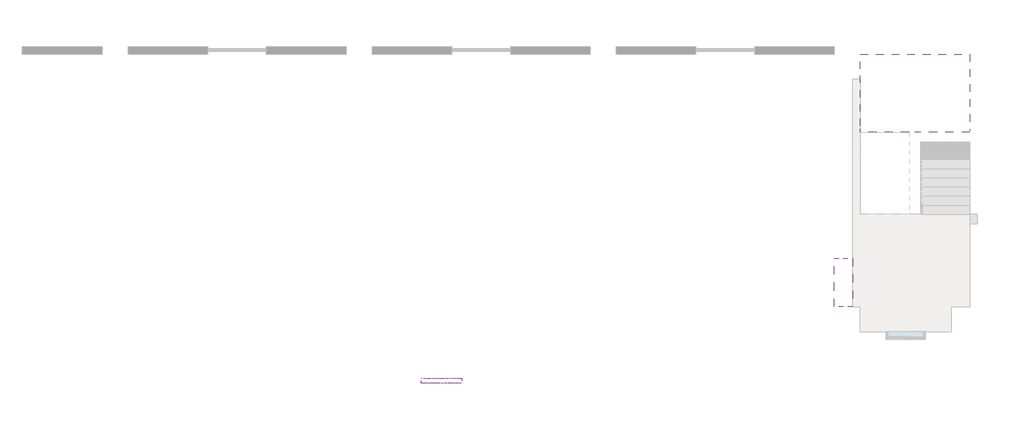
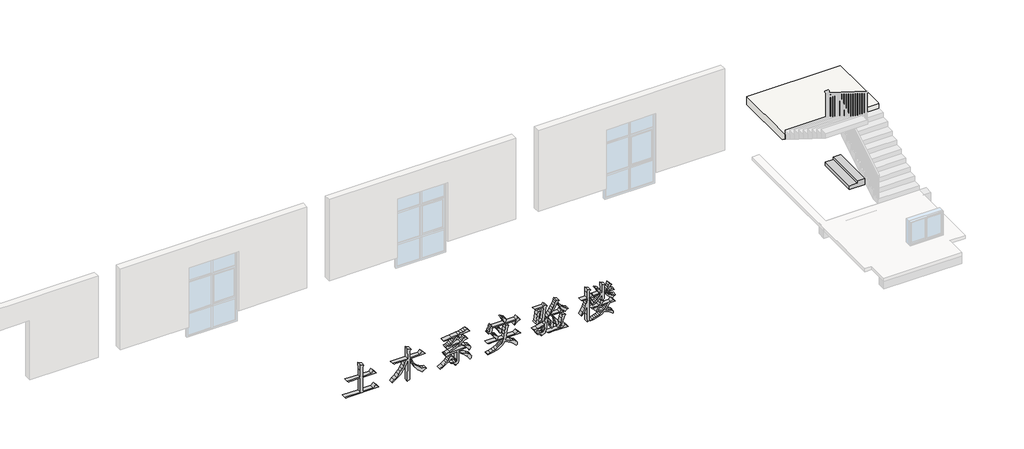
# One storey, part 2 of 2: 2 proxies, 1 slab.
"""IFC4 building model written with IfcOpenShell, lengths in millimetres."""

from ifc_helpers import new_model, si_unit, frame, origin, place, context, project, spatial, polyline, outline, extrude, faceted_brep, transform, mapped, element, save
from components import mechanical_equipment_79b6d416

model = new_model("IFC4")

# Units and contexts
model_context = context("Model", 3, world=origin())
ifc_project = project(units=[si_unit("LENGTHUNIT", "METRE", prefix="MILLI")], contexts=[model_context])

# Site, building, storey
site = spatial("IfcSite", under=ifc_project)
building = spatial("IfcBuilding", under=site)
storey = spatial("IfcBuildingStorey", under=building, Name="三层", Elevation=7000.0)

# Proxies
placement = place(None, origin())
mechanical_equipment_shape = mechanical_equipment_79b6d416(model_context)
element("IfcBuildingElementProxy", 1, Name="机械设备 1 : 机械设备 1", ObjectType="机械设备 1 : 机械设备 1", at=placement, inside=storey, context=model_context, shape_type="MappedRepresentation", body=[
    mapped(mechanical_equipment_shape, transform((0.0, 0.0, 0.0), x_axis=(1.0, 0.0, 0.0), y_axis=(0.0, 1.0, 0.0), z_axis=(0.0, 0.0, 1.0))),
])
element("IfcBuildingElementProxy", 2, Name="1000 mm", ObjectType="1000 mm", at=placement, inside=storey, context=model_context, shape_type="SweptSolid", body=[
    extrude(outline(polyline([(11346.0651621, 6708.2416353), (11119.5594803, 6708.2416353), (11119.5594803, 6235.6706125), (11072.2299349, 6283.000158), (11084.1830599, 6343.3694762), (11088.1674349, 6409.0512944), (11088.1674349, 6708.2416353), (10547.7412985, 6708.2416353), (10547.7412985, 6141.0115216), (10500.411753, 6188.3410671), (10512.364878, 6248.7103853), (10516.349253, 6314.3922034), (10516.349253, 7364.8183398), (10631.7753894, 7249.3922034), (10547.7412985, 7165.3581125), (10547.7412985, 6787.2047034), (11088.1674349, 6787.2047034), (11088.1674349, 7270.4007262), (11193.2100485, 7165.3581125), (11119.5594803, 7091.7075444), (11119.5594803, 6787.2047034), (11484.9145939, 6787.2047034), (11526.2072076, 6834.2927716), (11582.7128894, 6703.1706125), (11346.0651621, 6708.2416353)])), frame((0.0, -1879.8143546, 0.0), z_axis=(0.0, 1.0, 0.0), x_axis=(0.0, 0.0, 1.0)), (0.0, 0.0, 1.0), 150.0),
    extrude(outline(polyline([(11196.349253, 8481.8922034), (11196.349253, 8508.2132262), (11097.1624633, 8529.7537535), (11002.9259576, 8560.3270401), (10913.639736, 8599.9330859), (10829.3037985, 8648.5718909), (10749.9181451, 8706.2434552), (10675.4827758, 8772.9477787), (10605.9976905, 8848.6848615), (10541.4628894, 8933.4547034), (10555.3780172, 8938.9935884), (10568.146128, 8947.6414932), (10590.2412985, 8974.2643625), (10607.7484008, 9013.3233114), (10620.6674349, 9064.8183398), (10641.6759576, 9064.8183398), (10671.1550503, 8973.8078196), (10712.0213056, 8889.8529634), (10764.2747236, 8812.9537713), (10827.9153042, 8743.1102432), (10902.9430474, 8680.3223792), (10989.3579533, 8624.5901793), (11087.1600219, 8575.9136434), (11196.349253, 8534.2927716), (11196.349253, 9038.4973171), (11311.7753894, 8923.0711807), (11227.7412985, 8839.0370898), (11227.7412985, 8481.8922034), (11496.2640258, 8481.8922034), (11539.005503, 8534.2927716), (11598.1674349, 8397.8581125), (11227.7412985, 8403.1706125), (11227.7412985, 7867.3325444), (11180.6532303, 7914.6620898), (11192.4252474, 7975.031408), (11196.349253, 8040.7132262), (11196.349253, 8345.2160671), (11097.9095336, 8305.1685706), (11003.2579888, 8258.5559108), (10912.3946188, 8205.3780877), (10825.3194235, 8145.6351012), (10742.0324029, 8079.3269513), (10662.533557, 8006.4536381), (10586.8228859, 7927.0151615), (10514.9003894, 7841.0115216), (10499.2043667, 7851.6365216), (10559.6755581, 7945.2466956), (10624.9385641, 8031.8087517), (10694.9933848, 8111.32269), (10769.8400201, 8183.7885103), (10849.47847, 8249.2062127), (10933.9087346, 8307.5757972), (11023.1308138, 8358.8972638), (11117.1447076, 8403.1706125), (10361.8037985, 8397.8581125), (10404.0623212, 8487.2047034), (10683.9948496, 8481.8922034), (11196.349253, 8481.8922034)])), frame((0.0, -1879.8143546, 0.0), z_axis=(0.0, 1.0, 0.0), x_axis=(0.0, 0.0, 1.0)), (0.0, 0.0, 1.0), 150.0),
    extrude(outline(polyline([(10789.2185712, 9956.1109534), (10737.8820123, 9921.8060884), (10688.1905172, 9881.9170614), (10640.1440861, 9836.4438725), (10593.7427189, 9785.3865216), (10508.471057, 9675.6954705), (10434.9714121, 9562.0200444), (10419.2753894, 9572.6450444), (10457.7004604, 9656.6942276), (10500.0495371, 9735.4610955), (10546.3226195, 9808.9456481), (10596.5197076, 9877.1478853), (10639.8346934, 9937.2455415), (10670.7739689, 9986.1748739), (10689.3375343, 10023.9358824), (10695.5253894, 10050.5285671), (10789.2185712, 9956.1109534)])), frame((0.0, -1879.8143546, 0.0), z_axis=(0.0, 1.0, 0.0), x_axis=(0.0, 0.0, 1.0)), (0.0, 0.0, 1.0), 150.0),
    extrude(outline(polyline([(10768.2100485, 10323.6393625), (10752.5140258, 10313.2558398), (10673.7622502, 10419.8680557), (10604.1262417, 10503.5399307), (10543.6060002, 10564.2714648), (10516.7642921, 10586.034604), (10492.2015258, 10602.062658), (10464.8391323, 10617.4417418), (10445.2945655, 10632.1869478), (10433.5678255, 10646.2982759), (10429.6589121, 10659.7757262), (10436.1787985, 10668.3481694), (10455.7384576, 10683.4404989), (10470.2421863, 10691.1451331), (10487.6738269, 10695.9067631), (10531.3208439, 10696.6010103), (10555.5817637, 10690.5489861), (10578.861682, 10677.584675), (10601.1605989, 10657.708077), (10622.4785144, 10630.9191921), (10647.2072964, 10589.0304314), (10679.7388127, 10523.8542063), (10768.2100485, 10323.6393625)])), frame((0.0, -1879.8143546, 0.0), z_axis=(0.0, 1.0, 0.0), x_axis=(0.0, 0.0, 1.0)), (0.0, 0.0, 1.0), 150.0),
    extrude(outline(polyline([(10906.5765258, 10528.4120898), (10856.7718383, 10565.8410671), (10812.1589121, 10594.093908), (10796.0704888, 10605.9262944), (10789.8222644, 10617.7586807), (10793.4142388, 10629.5910671), (10806.8464121, 10641.4234534), (10825.6891856, 10651.6107759), (10845.5129604, 10658.5079705), (10866.3177367, 10662.1150373), (10888.1035144, 10662.4319762), (10910.0553077, 10657.1647532), (10931.3581309, 10644.0193341), (10952.0119839, 10622.9957191), (10972.0168667, 10594.093908), (11014.6376053, 10509.3957546), (11063.7782303, 10386.6649307), (11048.0822076, 10376.281408), (11000.8734008, 10435.2622319), (10932.6560712, 10507.4035671), (10901.2640258, 9882.4603853), (10958.9770939, 9996.0754421), (11048.0822076, 10158.2274307), (11199.9714121, 10423.3694762), (11218.5802545, 10459.1986665), (11232.6312133, 10493.0356694), (11242.1242885, 10524.8804847), (11247.0594803, 10554.7331125), (11330.8520939, 10455.0029989), (11296.8037985, 10425.7389719), (11262.755503, 10390.5889364), (11228.7072076, 10349.5528924), (11194.6589121, 10302.6308398), (11178.9628894, 9887.7728853), (11196.3643454, 9922.8927361), (11222.2476905, 9965.2267205), (11299.4600485, 10071.5370898), (11341.4167246, 10126.3977077), (11372.8691394, 10175.3119478), (11393.8172928, 10218.27981), (11404.2611849, 10255.3012944), (11456.661753, 10150.2586807), (11488.0537985, 10415.5214648), (11498.6787985, 10535.6865927), (11498.6787985, 10628.3836807), (11598.1674349, 10549.4206125), (11573.1141678, 10477.2566388), (11550.3549349, 10397.1993767), (11529.889736, 10309.2488263), (11511.7185712, 10213.4049875), (11479.6020939, 9984.9373029), (11451.349253, 9698.6961807), (11430.5822076, 9698.6961807), (11435.7739689, 9866.7039932), (11451.349253, 10129.250158), (11402.7444057, 10092.7267205), (11356.4185002, 10051.2529989), (11312.3715364, 10004.8289932), (11270.6035144, 9953.4547034), (11234.7365932, 9901.7332901), (11208.392932, 9854.2679137), (11191.5725307, 9811.0585742), (11184.2753894, 9772.1052716), (11079.474253, 9824.7473171), (11103.6219803, 9885.0562659), (11123.9060712, 9961.1819762), (11142.9224064, 10076.7288512), (11163.2668667, 10255.3012944), (11046.6937133, 10059.1010103), (10969.3606167, 9911.437658), (10924.8080599, 9804.4028569), (10912.402165, 9763.1555202), (10906.5765258, 9730.0882262), (10806.8464121, 9782.7302716), (10827.1908724, 9845.031408), (10846.2072076, 9927.1336807), (10862.5672928, 10032.9007262), (10874.943003, 10166.1961807), (10576.4770939, 10166.1961807), (10544.3606167, 10165.9547034), (10521.4202758, 10160.1592489), (10507.6560712, 10148.8098171), (10503.068003, 10131.906408), (10506.9920087, 10068.2771466), (10518.7640258, 9956.1109534), (10497.755503, 9956.1109534), (10476.460226, 10027.3165642), (10463.6053344, 10055.2901971), (10449.2789405, 10078.1777148), (10433.4810446, 10095.9791175), (10416.2116465, 10108.6944052), (10397.4707463, 10116.3235777), (10377.2583439, 10118.8666353), (10387.8267477, 10149.4889719), (10401.1796863, 10175.6741637), (10417.3171596, 10197.4222106), (10436.2391678, 10214.7331125), (10457.9457108, 10227.6068696), (10482.4367885, 10236.0434819), (10509.7124011, 10240.0429492), (10539.7725485, 10239.6052716), (10885.568003, 10239.6052716), (10906.5765258, 10528.4120898)])), frame((0.0, -1879.8143546, 0.0), z_axis=(0.0, 1.0, 0.0), x_axis=(0.0, 0.0, 1.0)), (0.0, 0.0, 1.0), 150.0),
    extrude(outline(polyline([(11062.5708439, 11451.0967489), (11047.1162985, 11440.7132262), (11001.9449562, 11484.3300586), (10958.6752474, 11520.7629421), (10917.3071721, 11550.0118767), (10877.8407303, 11572.0768625), (10839.264736, 11591.7572603), (10829.6207374, 11600.6013654), (10826.4060712, 11608.781408), (10834.1031593, 11620.5232404), (10857.1944235, 11634.9816921), (10886.6848354, 11646.8442631), (10913.5793667, 11650.7984534), (10941.2888837, 11644.2181978), (10972.7412985, 11624.4774307), (10990.8520939, 11603.7707546), (11011.8606167, 11567.9717489), (11035.7668667, 11517.0804137), (11062.5708439, 11451.0967489)])), frame((0.0, -1879.8143546, 0.0), z_axis=(0.0, 1.0, 0.0), x_axis=(0.0, 0.0, 1.0)), (0.0, 0.0, 1.0), 150.0),
    extrude(outline(polyline([(11603.2384576, 11761.1535671), (11556.9050059, 11794.583077), (11512.5637417, 11821.4625159), (11470.214665, 11841.7918838), (11429.8577758, 11855.5711807), (11390.5573496, 11867.4639364), (11380.7322431, 11874.361131), (11377.4572076, 11881.8922034), (11379.4267566, 11890.2382617), (11385.3354036, 11899.5804137), (11408.9699917, 11921.2529989), (11440.4525911, 11939.0015784), (11471.8748212, 11944.9177716), (11488.0085215, 11942.2917063), (11504.7760996, 11934.4135103), (11522.1775556, 11921.2831836), (11540.2128894, 11902.9007262), (11576.9174349, 11850.3794194), (11613.6219803, 11776.8495898), (11603.2384576, 11761.1535671)])), frame((0.0, -1879.8143546, 0.0), z_axis=(0.0, 1.0, 0.0), x_axis=(0.0, 0.0, 1.0)), (0.0, 0.0, 1.0), 150.0),
    extrude(outline(polyline([(11172.9259576, 12228.4120898), (11162.3009576, 12244.3495898), (11221.764736, 12302.7569052), (11263.4799349, 12357.2402148), (11277.681817, 12383.0103675), (11287.4465542, 12407.7995188), (11292.7741465, 12431.6076686), (11293.6645939, 12454.4348171), (11409.3322076, 12354.4632262), (11351.3776621, 12296.750158), (11351.3776621, 11430.0882262), (11414.4032303, 11425.0172034), (11414.4032303, 11404.0086807), (11359.3011351, 11393.4289577), (11309.420986, 11377.6272887), (11264.7627829, 11356.6036736), (11225.3265258, 11330.3581125), (11192.545986, 11306.8140784), (11167.6134576, 11298.9660671), (11160.4144164, 11302.0826331), (11154.5133155, 11311.4323313), (11146.6049349, 11348.8311239), (11147.2388127, 11371.9601189), (11154.4529462, 11391.4820472), (11168.2473354, 11407.3969087), (11188.6219803, 11419.7047034), (11214.5807871, 11428.2318696), (11245.1276621, 11432.8048455), (11280.2626053, 11433.423631), (11319.9856167, 11430.0882262), (11319.9856167, 12307.375158), (11172.9259576, 12228.4120898)])), frame((0.0, -1879.8143546, 0.0), z_axis=(0.0, 1.0, 0.0), x_axis=(0.0, 0.0, 1.0)), (0.0, 0.0, 1.0), 150.0),
    extrude(outline(polyline([(10779.0765258, 11934.2927716), (10779.0765258, 12459.5058398), (10889.4316394, 12349.3922034), (10810.4685712, 12270.4291353), (10810.4685712, 11944.9177716), (10989.1013837, 11969.9106694), (11178.2384576, 11992.2473171), (11214.943003, 12034.2643625), (11277.9685712, 11902.9007262), (11166.3758866, 11900.2746608), (11041.6830599, 11892.3964648), (10918.2579888, 11879.2661381), (10810.4685712, 11860.8836807), (10810.4685712, 11267.3325444), (10763.380503, 11314.6620898), (10775.1525201, 11375.031408), (10779.0765258, 11440.7132262), (10779.0765258, 11855.5711807), (10737.5292291, 11839.6638654), (10698.4910322, 11820.7984534), (10661.961935, 11798.9749449), (10627.9419377, 11774.1933398), (10596.4310401, 11746.4536381), (10567.4292424, 11715.7558398), (10540.9365444, 11682.0999449), (10516.9529462, 11645.4859534), (10474.5057694, 11565.043837), (10438.080432, 11476.0896466), (10407.6769341, 11378.6233824), (10383.2952758, 11272.6450444), (10361.8037985, 11272.6450444), (10379.9070478, 11387.8146111), (10402.5832729, 11491.8460387), (10429.8324739, 11584.739327), (10461.6546508, 11666.4944762), (10499.7099597, 11737.745364), (10545.658557, 11799.1258682), (10599.5004427, 11850.635989), (10661.2356167, 11892.2757262), (10597.5308937, 12013.1200088), (10537.780361, 12112.9255841), (10481.9840187, 12191.692452), (10430.1418667, 12249.4206125), (10390.8414405, 12290.1699023), (10381.016334, 12305.6093554), (10377.7412985, 12317.7586807), (10382.0878894, 12327.115925), (10395.1276621, 12334.1791353), (10416.8606167, 12338.9483114), (10447.286753, 12341.4234534), (10480.7238091, 12336.8429314), (10511.4895229, 12320.4451154), (10539.5838944, 12292.2300053), (10565.0069235, 12252.1976012), (10591.0940151, 12195.9107581), (10621.1805741, 12118.9323313), (10693.3520939, 11902.9007262), (10779.0765258, 11934.2927716)])), frame((0.0, -1879.8143546, 0.0), z_axis=(0.0, 1.0, 0.0), x_axis=(0.0, 0.0, 1.0)), (0.0, 0.0, 1.0), 150.0),
    extrude(outline(polyline([(11256.9600485, 11593.0853853), (11241.505503, 11582.4603853), (11203.0955243, 11619.2102077), (11164.655361, 11650.7380841), (11126.185013, 11677.0440145), (11087.6844803, 11698.1279989), (11049.2895939, 11717.8083966), (11039.6908724, 11726.6525017), (11036.4912985, 11734.8325444), (11044.1883866, 11746.5743767), (11067.2796508, 11761.0328284), (11096.7700627, 11772.8953995), (11123.6645939, 11776.8495898), (11150.5591252, 11770.2693341), (11180.0495371, 11750.5285671), (11196.4020762, 11730.8179847), (11214.6713411, 11698.0072603), (11256.9600485, 11593.0853853)])), frame((0.0, -1879.8143546, 0.0), z_axis=(0.0, 1.0, 0.0), x_axis=(0.0, 0.0, 1.0)), (0.0, 0.0, 1.0), 150.0),
    extrude(outline(polyline([(10728.1248212, 12930.6279989), (10638.7782303, 12988.3410671), (10650.0257889, 12997.9435618), (10662.759942, 13016.2467844), (10692.6880314, 13078.9554137), (10728.5624988, 13176.4669549), (10770.3833439, 13308.781408), (10791.3918667, 13303.468908), (10749.2540826, 13076.359533), (10728.1248212, 12930.6279989)])), frame((0.0, -1879.8143546, 0.0), z_axis=(0.0, 1.0, 0.0), x_axis=(0.0, 0.0, 1.0)), (0.0, 0.0, 1.0), 150.0),
    extrude(outline(polyline([(10985.2981167, 13970.4291353), (10921.6235783, 13961.9019691), (10814.6340542, 13936.3204705), (10664.3295442, 13893.6846395), (10470.7100485, 13833.9944762), (10470.7100485, 13419.1365216), (10423.380503, 13466.2245898), (10435.1525201, 13526.7146466), (10439.0765258, 13592.2757262), (10439.0765258, 14164.8183398), (10544.1191394, 14070.4007262), (10470.7100485, 13996.750158), (10470.7100485, 13865.3865216), (10798.8776621, 14002.062658), (10842.3435712, 14022.7391495), (10875.6674349, 14042.7515784), (10898.849253, 14062.0999449), (10911.8890258, 14080.7842489), (10985.2981167, 13970.4291353)])), frame((0.0, -1879.8143546, 0.0), z_axis=(0.0, 1.0, 0.0), x_axis=(0.0, 0.0, 1.0)), (0.0, 0.0, 1.0), 150.0),
    extrude(outline(polyline([(11490.4685712, 12967.3325444), (11443.380503, 13014.6620898), (11455.1525201, 13075.031408), (11459.0765258, 13140.7132262), (11459.0765258, 13298.156408), (10980.4685712, 13245.7558398), (10980.4685712, 13093.3836807), (11295.5964121, 13135.4007262), (11327.2299349, 13177.4177716), (11384.943003, 13072.375158), (11239.2718383, 13057.8865216), (10991.0935712, 13025.0456125), (10970.0850485, 12988.3410671), (10907.0594803, 13056.6791353), (10949.0765258, 13093.3836807), (10949.0765258, 13350.7984534), (10723.4160144, 13329.1258682), (10648.1656593, 13317.7915287), (10597.9685712, 13306.125158), (10564.8409079, 13293.4777858), (10540.7988269, 13279.2004421), (10525.8423283, 13263.2931267), (10519.9714121, 13245.7558398), (10525.827236, 13181.4625159), (10548.7072076, 13061.9916353), (10527.6986849, 13056.6791353), (10502.7510641, 13121.3497674), (10474.5133155, 13168.3020046), (10459.1606433, 13185.1337251), (10442.9854391, 13197.5358469), (10425.987703, 13205.50837), (10408.1674349, 13209.0512944), (10423.3503184, 13254.8716069), (10447.6489689, 13298.156408), (10464.5448319, 13318.1839293), (10486.3758866, 13336.2494478), (10513.142133, 13352.3529634), (10544.8435712, 13366.4944762), (10594.7689974, 13379.6549875), (10676.2072076, 13392.8154989), (10789.1582019, 13405.9760103), (10933.6219803, 13419.1365216), (10965.0140258, 13461.1535671), (11028.0395939, 13382.1904989), (10986.0225485, 13350.7984534), (10986.0225485, 13314.093908), (11443.1390258, 13366.4944762), (11474.7725485, 13413.8240216), (11543.1106167, 13335.1024307), (11490.4685712, 13293.0853853), (11490.4685712, 12967.3325444)])), frame((0.0, -1879.8143546, 0.0), z_axis=(0.0, 1.0, 0.0), x_axis=(0.0, 0.0, 1.0)), (0.0, 0.0, 1.0), 150.0),
    extrude(outline(polyline([(10967.911753, 13650.2302716), (10907.0594803, 13676.3701864), (10829.3037985, 13702.6308398), (10746.3563553, 13723.6997319), (10669.9287985, 13734.2643625), (10647.1091962, 13737.7959677), (10630.8094803, 13743.3197603), (10621.0296508, 13750.8357404), (10617.7697076, 13760.343908), (10638.6574917, 13794.5129421), (10652.3688731, 13806.4811594), (10672.6152332, 13813.5292773), (10699.3965719, 13815.6572958), (10732.7128894, 13812.8652148), (10775.4996437, 13799.7424343), (10830.6922928, 13770.878354), (10898.2908368, 13726.272974), (10978.2952758, 13665.9262944), (10967.911753, 13650.2302716)])), frame((0.0, -1879.8143546, 0.0), z_axis=(0.0, 1.0, 0.0), x_axis=(0.0, 0.0, 1.0)), (0.0, 0.0, 1.0), 150.0),
    extrude(outline(polyline([(10922.755503, 13497.8581125), (10780.646128, 13534.6230273), (10721.4540116, 13545.0820117), (10670.1702758, 13550.2586807), (10628.6965542, 13554.0619478), (10598.693003, 13560.1592489), (10580.1596224, 13568.5505841), (10573.0964121, 13579.2359534), (10573.9038518, 13590.7363086), (10578.9824207, 13601.5726012), (10588.3321188, 13611.7448313), (10601.9529462, 13621.2529989), (10633.4355457, 13635.0172034), (10664.8577758, 13639.6052716), (10695.1329888, 13636.3151438), (10733.3165826, 13626.4447603), (10761.6222466, 13614.4539044), (10804.4014547, 13591.6418483), (10933.380503, 13513.5541353), (10922.755503, 13497.8581125)])), frame((0.0, -1879.8143546, 0.0), z_axis=(0.0, 1.0, 0.0), x_axis=(0.0, 0.0, 1.0)), (0.0, 0.0, 1.0), 150.0),
    extrude(outline(polyline([(11088.6503894, 13518.8666353), (11041.3208439, 13566.1961807), (11053.2739689, 13626.5654989), (11057.2583439, 13692.2473171), (11057.2583439, 14007.375158), (11151.6759576, 13923.3410671), (11088.6503894, 13860.3154989), (11088.6503894, 13518.8666353)])), frame((0.0, -1879.8143546, 0.0), z_axis=(0.0, 1.0, 0.0), x_axis=(0.0, 0.0, 1.0)), (0.0, 0.0, 1.0), 150.0),
    extrude(outline(polyline([(11598.1674349, 13734.2643625), (11539.7148425, 13717.1647532), (11474.7121792, 13692.1869478), (11403.1594448, 13659.3309463), (11325.0566394, 13618.5967489), (11245.9728326, 13571.6294194), (11171.4770939, 13520.0740216), (11101.5694235, 13463.9305557), (11036.2498212, 13403.1990216), (11020.3123212, 13413.8240216), (11062.1935357, 13467.7941921), (11108.9948496, 13519.4703284), (11160.716263, 13568.8524307), (11217.3577758, 13615.9404989), (11278.919388, 13660.734533), (11345.4010996, 13703.234533), (11416.8029107, 13743.4404989), (11493.1248212, 13781.3524307), (11421.809791, 13805.4133771), (11354.9243596, 13832.9229208), (11292.4685268, 13863.8810618), (11234.4422928, 13898.2878), (11180.8456575, 13936.1431356), (11131.6786209, 13977.4470685), (11086.9411831, 14022.1995987), (11046.6333439, 14070.4007262), (11070.313209, 14084.5120543), (11088.7107587, 14105.8375159), (11101.8259931, 14134.3771111), (11109.6589121, 14170.1308398), (11125.3549349, 14170.1308398), (11142.8620371, 14114.9155522), (11169.0623212, 14062.1603142), (11203.9557871, 14011.865126), (11247.5424349, 13964.0299875), (11299.8222644, 13918.6548988), (11360.7952758, 13875.7398597), (11430.4614689, 13835.2848704), (11508.8208439, 13797.2899307), (11535.1418667, 13839.3069762), (11598.1674349, 13734.2643625)])), frame((0.0, -1879.8143546, 0.0), z_axis=(0.0, 1.0, 0.0), x_axis=(0.0, 0.0, 1.0)), (0.0, 0.0, 1.0), 150.0),
    extrude(outline(polyline([(11133.3236849, 14924.7473171), (11104.3765968, 14951.6418483), (11074.7654462, 14974.6123739), (11044.4902332, 14993.6588938), (11013.5509576, 15008.781408), (10982.2192814, 15024.4774307), (10974.3863624, 15032.3254421), (10971.7753894, 15040.1734534), (10978.2952758, 15048.1120188), (10997.8549349, 15061.3027148), (11021.3385996, 15073.1652858), (11039.630503, 15077.1194762), (11059.2203468, 15072.5012233), (11086.5978326, 15058.6464648), (11102.87491, 15043.3503888), (11120.4348354, 15015.9351722), (11139.2776089, 14976.400815), (11159.4032303, 14924.7473171), (11227.2583439, 14924.7473171), (11227.2583439, 15113.8240216), (11316.6049349, 15024.4774307), (11258.8918667, 14966.7643625), (11258.8918667, 14924.7473171), (11502.7839121, 14924.7473171), (11539.9714121, 14972.0768625), (11598.1674349, 14851.0967489), (11455.0317814, 14855.0811239), (11258.8918667, 14856.4092489), (11258.8918667, 14641.0115216), (11216.8748212, 14683.0285671), (11227.2583439, 14730.3581125), (11227.2583439, 14851.0967489), (11134.704633, 14829.2732404), (11049.9838411, 14805.8197603), (10973.0959682, 14780.7363086), (10904.0410144, 14754.0228853), (10780.2537275, 14695.6457546), (10669.4458439, 14630.6279989), (10659.0623212, 14646.3240216), (10726.8117885, 14704.731337), (10804.9749633, 14759.2146466), (10893.5518454, 14809.7739506), (10992.5424349, 14856.4092489), (10628.9984008, 14855.0811239), (10361.8037985, 14851.0967489), (10403.5793667, 14930.0598171), (10690.2128894, 14924.7473171), (11133.3236849, 14924.7473171)])), frame((0.0, -1879.8143546, 0.0), z_axis=(0.0, 1.0, 0.0), x_axis=(0.0, 0.0, 1.0)), (0.0, 0.0, 1.0), 150.0),
    extrude(outline(polyline([(11519.2043667, 15155.8410671), (11479.6775556, 15187.0520046), (11441.5090542, 15212.3467489), (11404.6988624, 15231.7253), (11369.2469803, 15245.187658), (11333.2064974, 15260.8836807), (11324.1963766, 15268.7316921), (11321.193003, 15276.5797034), (11327.8939974, 15285.1521466), (11347.9969803, 15300.2444762), (11374.7405883, 15314.0086807), (11401.3634576, 15318.5967489), (11423.4888127, 15313.3446182), (11446.8819235, 15297.5882262), (11480.9604036, 15254.2430557), (11535.1418667, 15166.2245898), (11519.2043667, 15155.8410671)])), frame((0.0, -1879.8143546, 0.0), z_axis=(0.0, 1.0, 0.0), x_axis=(0.0, 0.0, 1.0)), (0.0, 0.0, 1.0), 150.0),
    extrude(outline(polyline([(11258.1674349, 15465.656408), (11258.1674349, 15486.6649307), (11208.804198, 15512.9142649), (11163.2215897, 15541.7972106), (11121.4196099, 15573.3137677), (11083.3982587, 15607.4639364), (11049.1575361, 15644.2477166), (11018.697442, 15683.6651083), (10992.0179764, 15725.7161115), (10969.1191394, 15770.4007262), (10992.7990045, 15784.1800231), (11011.1965542, 15804.5093909), (11024.3117885, 15831.3888299), (11032.1447076, 15864.8183398), (11053.1532303, 15864.8183398), (11060.9521916, 15813.3648153), (11073.8448141, 15764.0468554), (11091.8310979, 15716.8644602), (11114.9110428, 15671.8176296), (11143.084649, 15628.9063636), (11176.3519164, 15588.1306623), (11214.712845, 15549.4905255), (11258.1674349, 15512.9859534), (11258.1674349, 15828.1137944), (11352.5850485, 15733.4547034), (11289.5594803, 15670.4291353), (11289.5594803, 15465.656408), (11507.6134576, 15465.656408), (11539.7299349, 15512.9859534), (11598.1674349, 15392.2473171), (11289.5594803, 15397.3183398), (11289.5594803, 15092.8154989), (11247.5424349, 15134.8325444), (11258.1674349, 15182.1620898), (11258.1674349, 15323.9092489), (11211.8000254, 15297.58068), (11167.2361493, 15268.4600302), (11124.4758067, 15236.5472993), (11083.5189974, 15201.8424875), (11044.3657214, 15164.3455948), (11007.0159789, 15124.0566211), (10937.7270939, 15035.1024307), (10922.0310712, 15045.4859534), (10949.7669998, 15096.939478), (10980.4534789, 15146.2574378), (11014.0905084, 15193.4398331), (11050.6780883, 15238.4866637), (11090.2162186, 15281.3979297), (11132.7048993, 15322.173631), (11178.1441305, 15360.8137677), (11226.5339121, 15397.3183398), (11000.7526621, 15392.2473171), (11037.4572076, 15470.968908), (11131.9955599, 15466.984533), (11258.1674349, 15465.656408)])), frame((0.0, -1879.8143546, 0.0), z_axis=(0.0, 1.0, 0.0), x_axis=(0.0, 0.0, 1.0)), (0.0, 0.0, 1.0), 150.0),
    extrude(outline(polyline([(10930.724253, 15402.6308398), (10951.7327758, 15455.2728853), (11020.0708439, 15344.9177716), (10928.249111, 15314.6727432), (10841.6191394, 15276.5797034), (10841.6191394, 14987.7728853), (10799.6020939, 15029.7899307), (10809.9856167, 15077.1194762), (10809.9856167, 15266.1961807), (10643.1248212, 15176.8495898), (10602.7981167, 15327.8332546), (10575.5111849, 15413.2558398), (10542.8891145, 15376.2984978), (10512.8780172, 15333.7645401), (10485.477893, 15285.6539666), (10460.6887417, 15231.9667773), (10438.5105634, 15172.7029723), (10418.9433582, 15107.8625515), (10401.9871259, 15037.4455149), (10387.6418667, 14961.4518625), (10366.8748212, 14966.7643625), (10376.6697431, 15050.5267915), (10390.2377474, 15128.5541353), (10407.578834, 15200.8463938), (10428.693003, 15267.4035671), (10453.5802545, 15328.2256552), (10482.2405883, 15383.312658), (10514.6740045, 15432.6645756), (10550.880503, 15476.281408), (10522.9295087, 15545.8721395), (10491.7185712, 15607.584675), (10457.2476905, 15661.4190145), (10419.5168667, 15707.375158), (10388.0040826, 15744.1400728), (10380.1258866, 15758.5834321), (10377.4998212, 15770.4007262), (10380.5937488, 15777.4337517), (10389.8755314, 15782.8368057), (10427.0026621, 15788.7529989), (10450.9390968, 15786.1344797), (10473.2455599, 15775.6226722), (10493.9220513, 15757.2175763), (10512.9685712, 15730.9191921), (10531.5321366, 15694.9466246), (10550.7597644, 15647.518979), (10591.2072076, 15518.2984534), (10643.9096224, 15560.2400373), (10697.9401621, 15596.959675), (10753.2988269, 15628.4573668), (10809.9856167, 15654.7331125), (10809.9856167, 15859.5058398), (10909.7157303, 15759.7757262), (10841.6191394, 15691.437658), (10841.6191394, 15350.2302716), (10930.724253, 15402.6308398)]), holes=[polyline([(10809.9856167, 15339.6052716), (10809.9856167, 15570.6990216), (10750.2501763, 15541.5104563), (10697.0949917, 15511.6578284), (10650.5200627, 15481.1411381), (10610.5253894, 15449.9603853), (10657.6134576, 15255.5711807), (10753.5403042, 15305.4362375), (10809.9856167, 15339.6052716)])]), frame((0.0, -1879.8143546, 0.0), z_axis=(0.0, 1.0, 0.0), x_axis=(0.0, 0.0, 1.0)), (0.0, 0.0, 1.0), 150.0),
    extrude(outline(polyline([(11460.0424349, 15681.0541353), (11475.9799349, 15728.3836807), (11550.8378894, 15639.0370898), (11490.3931096, 15613.4103142), (11431.9707019, 15583.859533), (11375.5706664, 15550.3847461), (11321.193003, 15512.9859534), (11310.568003, 15528.6819762), (11371.9635996, 15598.2878), (11460.0424349, 15681.0541353)])), frame((0.0, -1879.8143546, 0.0), z_axis=(0.0, 1.0, 0.0), x_axis=(0.0, 0.0, 1.0)), (0.0, 0.0, 1.0), 150.0),
])

# Slab
element("IfcSlab", 3, ObjectType="300mm 厚度", at=placement, inside=storey, context=model_context, shape_type="Brep", body=[
    faceted_brep([(28282.1385293, 5840.3432269, 8750.0), (29782.1385293, 5840.3432269, 8750.0), (29782.1385293, 5923.3626608, 8750.0), (29782.1385293, 8229.1856454, 8750.0), (26422.1385293, 8229.1856454, 8750.0), (26422.1385293, 6037.3237929, 8750.0), (26422.1385293, 5840.3432269, 8750.0), (27922.1385293, 5840.3432269, 8750.0), (28282.1385293, 5840.3432269, 8450.0), (28282.1385293, 5840.3432269, 8398.1128538), (29782.1385293, 5840.3432269, 8398.1128538), (29782.1385293, 5840.3432269, 8575.0), (29782.1385293, 5923.3626608, 8450.0), (29782.1385293, 8229.1856454, 8450.0), (26422.1385293, 8229.1856454, 8450.0), (26422.1385293, 6037.3237929, 8450.0), (26422.1385293, 5840.3432269, 8573.1128538), (27922.1385293, 5840.3432269, 8573.1128538), (27922.1385293, 5840.3432269, 8450.0), (27922.1385293, 6037.3237929, 8450.0), (28282.1385293, 5923.3626608, 8450.0)], [[[0, 1, 2, 3, 4, 5, 6, 7]], [[1, 0, 8, 9, 10, 11]], [[1, 11, 10, 12, 13, 3, 2]], [[4, 3, 13, 14]], [[4, 14, 15, 16, 6, 5]], [[7, 6, 16, 17]], [[0, 7, 17, 18, 8]], [[18, 19, 15, 14, 13, 12, 20, 8]], [[19, 18, 17]], [[20, 12, 10, 9]], [[8, 20, 9]], [[15, 19, 17, 16]]]),
])

save(model, "model.ifc")
